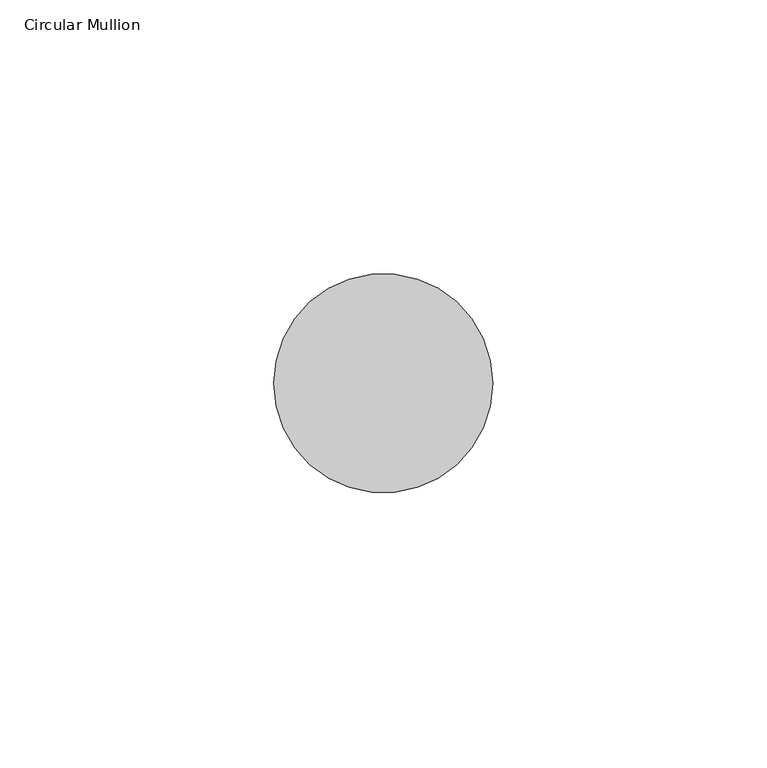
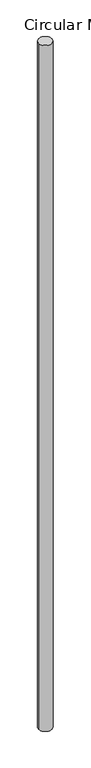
"""IFC4 building model written with IfcOpenShell, lengths in millimetres: member geometry, Circular Mullion : GRADIL 40mm."""

from ifc_helpers import new_model, si_unit, point, frame, origin, origin_2d, place, context, project, spatial, circle_curve, trimmed, segment, composite_curve, outline, extrude, source, transform, mapped, element, save


def circular_mullion_f0fc4721(model_context):
    return source(origin(), model_context, "Body", "SweptSolid", [
        extrude(outline(composite_curve([segment(trimmed(circle_curve(origin_2d(), 20.0), [point((20.0, 0.0))], [point((-20.0, 0.0))], False, "CARTESIAN"), True, "CONTINUOUS"), segment(trimmed(circle_curve(origin_2d(), 20.0), [point((-20.0, 0.0))], [point((20.0, 0.0))], False, "CARTESIAN"), True, "CONTINUOUS")], self_intersect=False)), frame((0.0, 0.0, -2147.2372749), z_axis=(0.0, 0.0, 1.0), x_axis=(1.0, 0.0, 0.0)), (0.0, 0.0, 1.0), 2147.2372749),
    ])


if __name__ == "__main__":
    model = new_model("IFC4")
    model_context = context("Model", 3, world=origin())
    ifc_project = project(units=[si_unit("LENGTHUNIT", "METRE", prefix="MILLI")], contexts=[model_context])
    site = spatial("IfcSite", under=ifc_project)
    building = spatial("IfcBuilding", under=site)
    placement = place(None, origin())
    circular_mullion_shape = circular_mullion_f0fc4721(model_context)
    element("IfcMember", 1, ObjectType="Circular Mullion : GRADIL 40mm", at=placement, inside=building, context=model_context, shape_type="MappedRepresentation", body=[
        mapped(circular_mullion_shape, transform((0.0, 0.0, 0.0), x_axis=(1.0, 0.0, 0.0), y_axis=(0.0, 1.0, 0.0), z_axis=(0.0, 0.0, 1.0))),
    ])
    save(model, "model.ifc")
